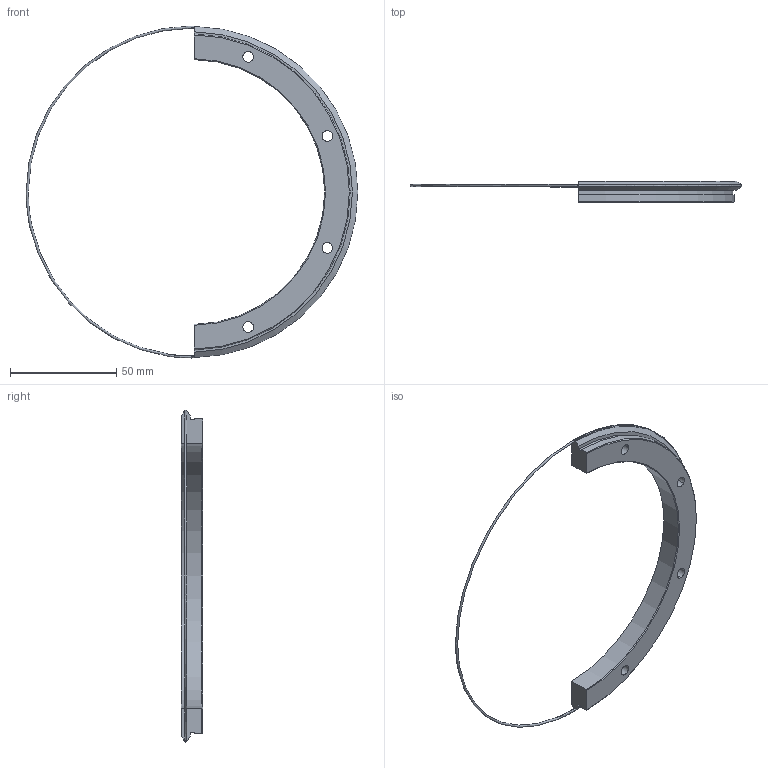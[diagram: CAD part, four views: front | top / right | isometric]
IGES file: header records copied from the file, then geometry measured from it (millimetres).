
Start section: 3D InterOp IGES (v. 2019 1.0.2), Spatial Corp. Copyright (c) 1999-2017.
Global section: file name: REV 156 R180.igs; native system: Spatial Corp.; preprocessor: 3D InterOp GENERIC/IGES 3.0; author: Noname; organization: Noname; date: 20220719.140125; units: millimetre
Bounding box: 155.98 x 10 x 156.2 mm (x, y, z)
Surface area: 13221.2 mm2 (no closed solid volume)
Topology: 0 solids, 0 shells, 34 faces, 170 edges, 169 vertices
Faces by surface type: revolution 24, extrusion 10
